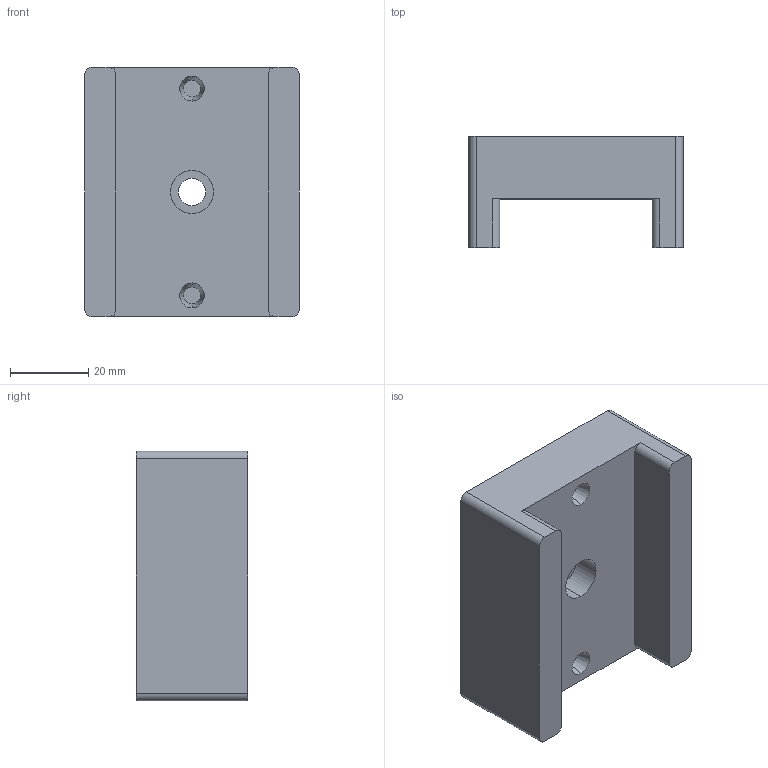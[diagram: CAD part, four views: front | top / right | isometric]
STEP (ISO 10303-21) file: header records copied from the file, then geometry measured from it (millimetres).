
FILE_DESCRIPTION (( 'STEP AP214' ), '1' );
FILE_NAME ('FM3 Press-In Fixture - Top.STEP', '2022-05-27T16:42:57', ( '' ), ( '' ), 'SwSTEP 2.0', 'SolidWorks 2018', '' );
FILE_SCHEMA (( 'AUTOMOTIVE_DESIGN' ));
Length unit declared in the file: millimetre
Products named in the file (1): FM3 Press-In Fixture - Top
Bounding box: 55 x 28.45 x 64 mm (x, y, z)
Volume: 67454.8 mm3; surface area: 15012.5 mm2
Topology: 1 solids, 1 shells, 33 faces, 80 edges, 52 vertices
Faces by surface type: cylinder 16, plane 13, cone 4
Entity records: 1016 total; most frequent: DIRECTION 184, CARTESIAN_POINT 166, ORIENTED_EDGE 160, EDGE_CURVE 80, AXIS2_PLACEMENT_3D 70, VERTEX_POINT 52, LINE 44, VECTOR 44
